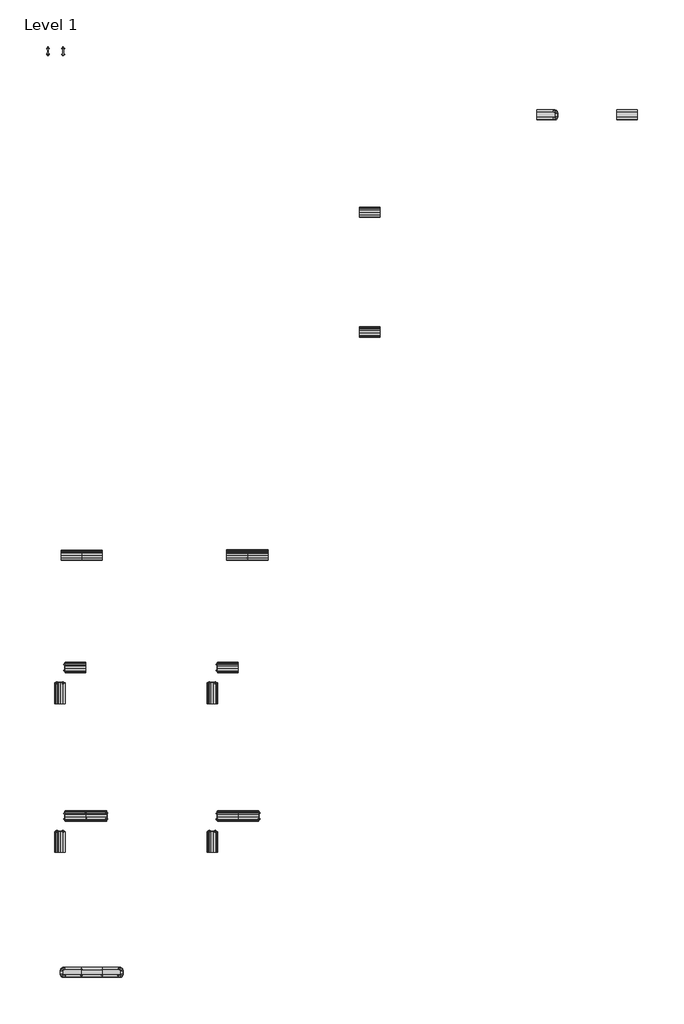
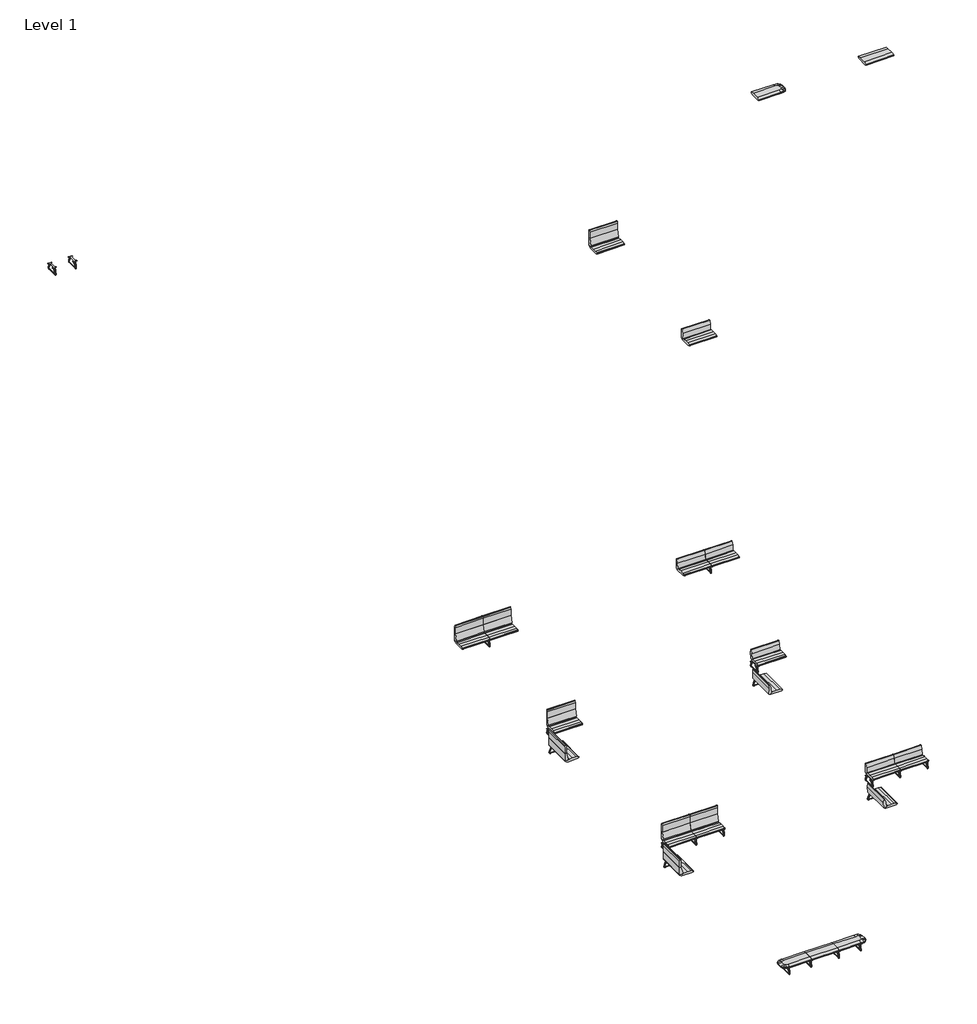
# One storey, incomplete: 25 furniture elements.
"""IFC4 building model written with IfcOpenShell, lengths in millimetres."""

from ifc_helpers import new_model, si_unit, origin, place, context, project, spatial, transform, mapped, element, save
from components import ct_1171_14e2fea1, ct_1171_189cd0db, ct_1171_7dda7bf0, ct_1171_176efd8a, ct_2171_170751f1, ct_2171_a54bb54a, ct_2171_f297477d, ct_2171_44496a0e, ct_70_ffbafca3, ct_70_a392665e, ct_70_526bd046, ct_70_d8ba06b4, ct_71_36879ba4, ct_71_217d044a, ct_leg_b_2be85a5b, ct_leg_bl_cbca5a48

model = new_model("IFC4")

# Units and contexts
model_context = context("Model", 3, world=origin())
ifc_project = project(units=[si_unit("LENGTHUNIT", "METRE", prefix="MILLI")], contexts=[model_context])

# Site, building, storey
site = spatial("IfcSite", under=ifc_project)
building = spatial("IfcBuilding", under=site)
storey = spatial("IfcBuildingStorey", under=building, Name="Level 1", Elevation=0.0)

# Furniture
placement = place(None, origin())
ct_1171_shape = ct_1171_14e2fea1(model_context)
element("IfcFurniture", 1, ObjectType="Davis_Furniture-Cantina-Low_Back_Straight : CT-1171", at=placement, inside=storey, context=model_context, shape_type="MappedRepresentation", body=[
    mapped(ct_1171_shape, transform((-31156.6939676, 33681.8068006, 0.0), x_axis=(1.0, 0.0, 0.0), y_axis=(0.0, 1.0, 0.0), z_axis=(0.0, 0.0, 1.0))),
])
element("IfcFurniture", 2, ObjectType="Davis_Furniture-Cantina-Low_Back_Straight : CT-1171", at=placement, inside=storey, context=model_context, shape_type="MappedRepresentation", body=[
    mapped(ct_1171_shape, transform((-38047.1543376, 19956.3320278, 0.0), x_axis=(1.0, 0.0, 0.0), y_axis=(0.0, 1.0, 0.0), z_axis=(0.0, 0.0, 1.0))),
])
element("IfcFurniture", 3, ObjectType="Davis_Furniture-Cantina-Low_Back_Straight : CT-1171", at=placement, inside=storey, context=model_context, shape_type="MappedRepresentation", body=[
    mapped(ct_1171_shape, transform((-39886.3667758, 3916.4762673, 0.0), x_axis=(1.0, 0.0, 0.0), y_axis=(0.0, 1.0, 0.0), z_axis=(0.0, 0.0, 1.0))),
])
ct_1171_2_shape = ct_1171_189cd0db(model_context)
element("IfcFurniture", 4, ObjectType="Davis_Furniture-Cantina-Low_Back_Straight : CT-1171", at=placement, inside=storey, context=model_context, shape_type="MappedRepresentation", body=[
    mapped(ct_1171_2_shape, transform((-39317.1543376, 19956.3320278, 0.0), x_axis=(1.0, 0.0, 0.0), y_axis=(0.0, 1.0, 0.0), z_axis=(0.0, 0.0, 1.0))),
])
element("IfcFurniture", 5, ObjectType="Davis_Furniture-Cantina-Low_Back_Straight : CT-1171", at=placement, inside=storey, context=model_context, shape_type="MappedRepresentation", body=[
    mapped(ct_1171_2_shape, transform((-40838.8667758, 11464.1797258, 0.0), x_axis=(0.0, 1.0000000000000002, 0.0), y_axis=(-1.0000000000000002, 0.0, 0.0), z_axis=(0.0, 0.0, 1.0))),
])
element("IfcFurniture", 6, ObjectType="Davis_Furniture-Cantina-Low_Back_Straight : CT-1171", at=placement, inside=storey, context=model_context, shape_type="MappedRepresentation", body=[
    mapped(ct_1171_2_shape, transform((-40838.8667758, 2328.9762673, 0.0), x_axis=(0.0, 1.000000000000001, 0.0), y_axis=(-1.000000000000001, 0.0, 0.0), z_axis=(0.0, 0.0, 1.0))),
])
ct_1171_3_shape = ct_1171_7dda7bf0(model_context)
element("IfcFurniture", 7, ObjectType="Davis_Furniture-Cantina-Low_Back_Straight : CT-1171", at=placement, inside=storey, context=model_context, shape_type="MappedRepresentation", body=[
    mapped(ct_1171_3_shape, transform((-39886.3667758, 13051.6797258, 0.0), x_axis=(1.0, 0.0, 0.0), y_axis=(0.0, 1.0, 0.0), z_axis=(0.0, 0.0, 1.0))),
])
ct_1171_4_shape = ct_1171_176efd8a(model_context)
element("IfcFurniture", 8, ObjectType="Davis_Furniture-Cantina-Low_Back_Straight : CT-1171", at=placement, inside=storey, context=model_context, shape_type="MappedRepresentation", body=[
    mapped(ct_1171_4_shape, transform((-38616.3667758, 3916.4762673, 0.0), x_axis=(1.0, 0.0, 0.0), y_axis=(0.0, 1.0, 0.0), z_axis=(0.0, 0.0, 1.0))),
])
ct_2171_shape = ct_2171_170751f1(model_context)
element("IfcFurniture", 9, ObjectType="Davis_Furniture-Cantina-High_Back_Straight : CT-2171", at=placement, inside=storey, context=model_context, shape_type="MappedRepresentation", body=[
    mapped(ct_2171_shape, transform((-31156.6939676, 41042.4797258, 0.0), x_axis=(1.0, 0.0, 0.0), y_axis=(0.0, 1.0, 0.0), z_axis=(0.0, 0.0, 1.0))),
])
element("IfcFurniture", 10, ObjectType="Davis_Furniture-Cantina-High_Back_Straight : CT-2171", at=placement, inside=storey, context=model_context, shape_type="MappedRepresentation", body=[
    mapped(ct_2171_shape, transform((-48236.0555431, 19956.3320278, 0.0), x_axis=(1.0, 0.0, 0.0), y_axis=(0.0, 1.0, 0.0), z_axis=(0.0, 0.0, 1.0))),
])
element("IfcFurniture", 11, ObjectType="Davis_Furniture-Cantina-High_Back_Straight : CT-2171", at=placement, inside=storey, context=model_context, shape_type="MappedRepresentation", body=[
    mapped(ct_2171_shape, transform((-49257.0828717, 3916.4762673, 0.0), x_axis=(1.0, 0.0, 0.0), y_axis=(0.0, 1.0, 0.0), z_axis=(0.0, 0.0, 1.0))),
])
ct_2171_2_shape = ct_2171_a54bb54a(model_context)
element("IfcFurniture", 12, ObjectType="Davis_Furniture-Cantina-High_Back_Straight : CT-2171", at=placement, inside=storey, context=model_context, shape_type="MappedRepresentation", body=[
    mapped(ct_2171_2_shape, transform((-49506.0555431, 19956.3320278, 0.0), x_axis=(1.0, 0.0, 0.0), y_axis=(0.0, 1.0, 0.0), z_axis=(0.0, 0.0, 1.0))),
])
element("IfcFurniture", 13, ObjectType="Davis_Furniture-Cantina-High_Back_Straight : CT-2171", at=placement, inside=storey, context=model_context, shape_type="MappedRepresentation", body=[
    mapped(ct_2171_2_shape, transform((-50209.5828717, 11464.1797258, 0.0), x_axis=(0.0, 1.0000000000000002, 0.0), y_axis=(-1.0000000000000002, 0.0, 0.0), z_axis=(0.0, 0.0, 1.0))),
])
element("IfcFurniture", 14, ObjectType="Davis_Furniture-Cantina-High_Back_Straight : CT-2171", at=placement, inside=storey, context=model_context, shape_type="MappedRepresentation", body=[
    mapped(ct_2171_2_shape, transform((-50209.5828717, 2328.9762673, 0.0), x_axis=(0.0, 1.0000000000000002, 0.0), y_axis=(-1.0000000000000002, 0.0, 0.0), z_axis=(0.0, 0.0, 1.0))),
])
ct_2171_3_shape = ct_2171_f297477d(model_context)
element("IfcFurniture", 15, ObjectType="Davis_Furniture-Cantina-High_Back_Straight : CT-2171", at=placement, inside=storey, context=model_context, shape_type="MappedRepresentation", body=[
    mapped(ct_2171_3_shape, transform((-49257.0828717, 13051.6797258, 0.0), x_axis=(1.0, 0.0, 0.0), y_axis=(0.0, 1.0, 0.0), z_axis=(0.0, 0.0, 1.0))),
])
ct_2171_4_shape = ct_2171_44496a0e(model_context)
element("IfcFurniture", 16, ObjectType="Davis_Furniture-Cantina-High_Back_Straight : CT-2171", at=placement, inside=storey, context=model_context, shape_type="MappedRepresentation", body=[
    mapped(ct_2171_4_shape, transform((-47987.0828717, 3916.4762673, 0.0), x_axis=(1.0, 0.0, 0.0), y_axis=(0.0, 1.0, 0.0), z_axis=(0.0, 0.0, 1.0))),
])
ct_70_shape = ct_70_ffbafca3(model_context)
element("IfcFurniture", 17, ObjectType="Davis_Furniture-Cantina-Backless_Bench_End : CT-70", at=placement, inside=storey, context=model_context, shape_type="MappedRepresentation", body=[
    mapped(ct_70_shape, transform((-20213.6144026, 47034.8868061, 0.0), x_axis=(1.0, 0.0, 0.0), y_axis=(0.0, 1.0, 0.0), z_axis=(0.0, 0.0, 1.0))),
])
ct_70_2_shape = ct_70_a392665e(model_context)
ct_70_3_shape = ct_70_526bd046(model_context)
element("IfcFurniture", 18, ObjectType="Davis_Furniture-Cantina-Backless_Bench_End : CT-70", at=placement, inside=storey, context=model_context, shape_type="MappedRepresentation", body=[
    mapped(ct_70_2_shape, transform((-49555.4503401, -5696.0653744, 0.0), x_axis=(-1.0, 0.0, 0.0), y_axis=(0.0, -1.0, 0.0), z_axis=(0.0, 0.0, 1.0))),
    mapped(ct_70_3_shape, transform((-49555.4503401, -5696.0653744, 0.0), x_axis=(-1.0, 0.0, 0.0), y_axis=(0.0, -1.0, 0.0), z_axis=(0.0, 0.0, 1.0))),
])
ct_70_4_shape = ct_70_d8ba06b4(model_context)
element("IfcFurniture", 19, ObjectType="Davis_Furniture-Cantina-Backless_Bench_End : CT-70", at=placement, inside=storey, context=model_context, shape_type="MappedRepresentation", body=[
    mapped(ct_70_4_shape, transform((-46964.6503401, -5696.0653744, 0.0), x_axis=(1.0, 0.0, 0.0), y_axis=(0.0, 1.0, 0.0), z_axis=(0.0, 0.0, 1.0))),
    mapped(ct_70_shape, transform((-46964.6503401, -5696.0653744, 0.0), x_axis=(1.0, 0.0, 0.0), y_axis=(0.0, 1.0, 0.0), z_axis=(0.0, 0.0, 1.0))),
])
ct_71_shape = ct_71_36879ba4(model_context)
element("IfcFurniture", 20, ObjectType="Davis_Furniture-Cantina-Backless_Bench_Straight : CT-71", at=placement, inside=storey, context=model_context, shape_type="MappedRepresentation", body=[
    mapped(ct_71_shape, transform((-15310.0944255, 47034.8868061, 0.0), x_axis=(1.0, 0.0, 0.0), y_axis=(0.0, 1.0, 0.0), z_axis=(0.0, 0.0, 1.0))),
])
ct_71_2_shape = ct_71_217d044a(model_context)
element("IfcFurniture", 21, ObjectType="Davis_Furniture-Cantina-Backless_Bench_Straight : CT-71", at=placement, inside=storey, context=model_context, shape_type="MappedRepresentation", body=[
    mapped(ct_71_2_shape, transform((-48260.0503401, -5696.0653744, 0.0), x_axis=(1.0, 0.0, 0.0), y_axis=(0.0, 1.0, 0.0), z_axis=(0.0, 0.0, 1.0))),
])
ct_leg_b_shape = ct_leg_b_2be85a5b(model_context)
element("IfcFurniture", 22, ObjectType="Davis_Furniture-Cantina-Leg : CT-Leg-B", at=placement, inside=storey, context=model_context, shape_type="MappedRepresentation", body=[
    mapped(ct_leg_b_shape, transform((-50016.3222151, 50944.8935507, 0.0), x_axis=(1.0, 0.0, 0.0), y_axis=(0.0, 1.0, 0.0), z_axis=(0.0, 0.0, 1.0))),
])
element("IfcFurniture", 23, ObjectType="Davis_Furniture-Cantina-Leg : CT-Leg-B", at=placement, inside=storey, context=model_context, shape_type="MappedRepresentation", body=[
    mapped(ct_leg_b_shape, transform((-49892.0828717, 3916.4762673, 0.0), x_axis=(1.0000000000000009, 0.0, 0.0), y_axis=(0.0, 1.0000000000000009, 0.0), z_axis=(0.0, 0.0, 1.0))),
])
element("IfcFurniture", 24, ObjectType="Davis_Furniture-Cantina-Leg : CT-Leg-B", at=placement, inside=storey, context=model_context, shape_type="MappedRepresentation", body=[
    mapped(ct_leg_b_shape, transform((-40521.3667758, 3916.4762673, 0.0), x_axis=(1.0000000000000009, 0.0, 0.0), y_axis=(0.0, 1.0000000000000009, 0.0), z_axis=(0.0, 0.0, 1.0))),
])
ct_leg_bl_shape = ct_leg_bl_cbca5a48(model_context)
element("IfcFurniture", 25, ObjectType="Davis_Furniture-Cantina-Leg : CT-Leg-BL", at=placement, inside=storey, context=model_context, shape_type="MappedRepresentation", body=[
    mapped(ct_leg_bl_shape, transform((-50952.690642, 50944.8935507, 0.0), x_axis=(1.0, 0.0, 0.0), y_axis=(0.0, 1.0, 0.0), z_axis=(0.0, 0.0, 1.0))),
])

save(model, "model.ifc")
